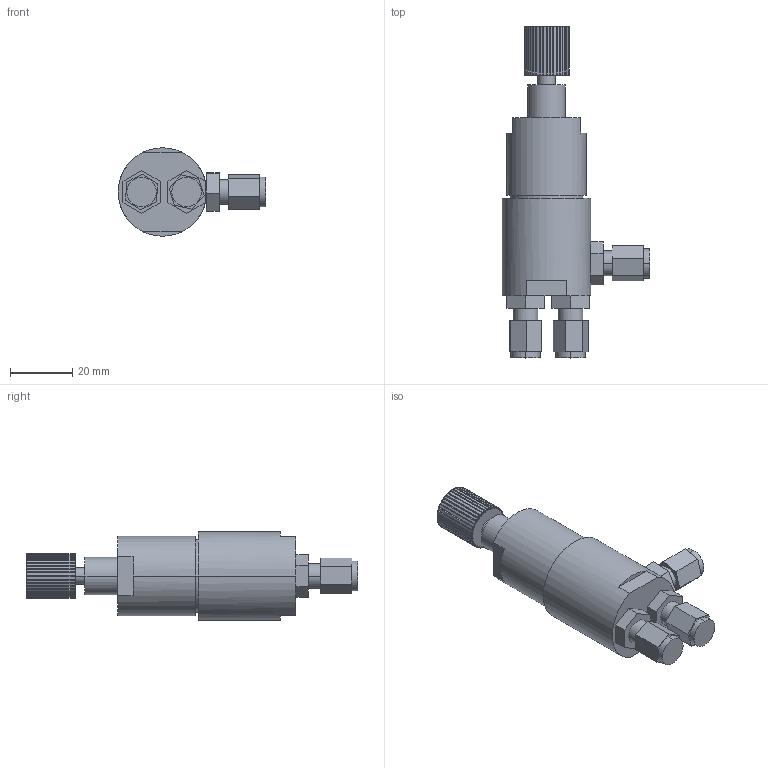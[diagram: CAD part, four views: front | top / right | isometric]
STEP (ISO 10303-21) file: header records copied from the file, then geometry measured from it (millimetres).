
FILE_DESCRIPTION (( 'STEP AP203' ), '1' );
FILE_NAME ('GWF-1恛揤概耀倰.STEP', '2021-05-08T05:54:48', ( 'admin' ), ( '' ), 'SwSTEP 2.0', 'SolidWorks 2016', '' );
FILE_SCHEMA (( 'CONFIG_CONTROL_DESIGN' ));
Length unit declared in the file: millimetre
Products named in the file (1): GWF-1恛揤概耀倰
Bounding box: 47.5 x 107 x 28.5 mm (x, y, z)
Volume: 41761.5 mm3; surface area: 10865.4 mm2
Topology: 2 solids, 2 shells, 292 faces, 810 edges, 540 vertices
Faces by surface type: plane 146, torus 80, cylinder 66
Entity records: 9909 total; most frequent: CARTESIAN_POINT 2443, ORIENTED_EDGE 1620, DIRECTION 1456, EDGE_CURVE 810, VERTEX_POINT 540, AXIS2_PLACEMENT_3D 513, LINE 430, VECTOR 430
